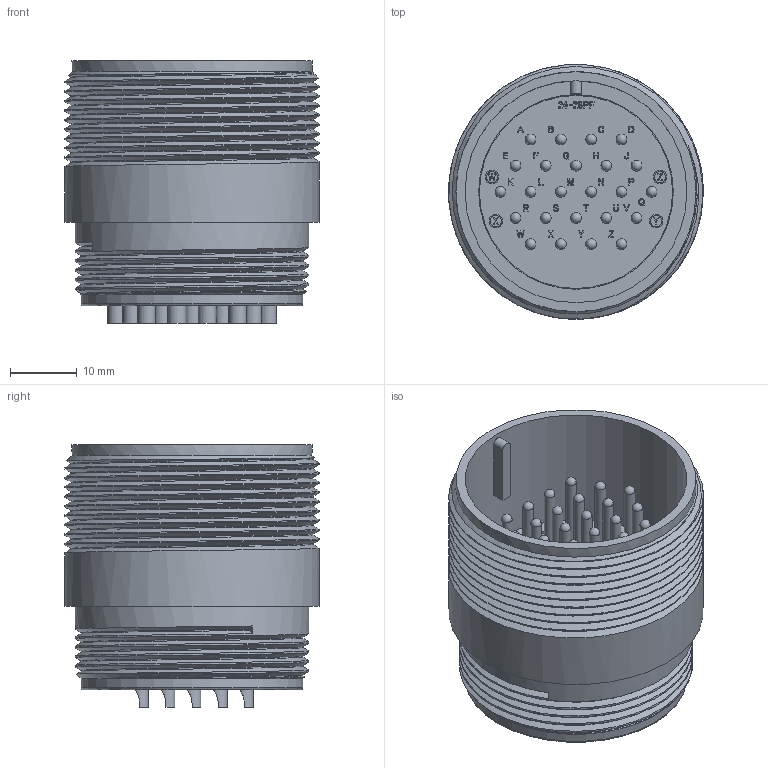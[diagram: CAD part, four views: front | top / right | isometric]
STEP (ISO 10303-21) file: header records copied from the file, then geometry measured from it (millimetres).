
FILE_DESCRIPTION (( 'STEP AP203' ), '1' );
FILE_NAME ('DMS3101A24-28P(D263).STEP', '2022-02-17T00:33:02', ( '' ), ( '' ), 'SwSTEP 2.0', 'SolidWorks 2018', '' );
FILE_SCHEMA (( 'CONFIG_CONTROL_DESIGN' ));
Length unit declared in the file: millimetre
Products named in the file (1): DMS3101A24-28P(D263)
Bounding box: 38.06 x 38.06 x 39.2 mm (x, y, z)
Volume: 18878 mm3; surface area: 14566.6 mm2
Topology: 1 solids, 1 shells, 1259 faces, 3376 edges, 2234 vertices
Faces by surface type: plane 725, bspline 352, cylinder 155, sphere 24, cone 2, torus 1
Full cylindrical faces by diameter (mm): 1.59 x24, 1.7 x4, 2 x4, 3.8 x24, 28.85 x1, 29.08 x1, 30.75 x1, 33.12 x1, 33.15 x1, 34.88 x4, 35.87 x1, 38.06 x8
Entity records: 51810 total; most frequent: CARTESIAN_POINT 23824, ORIENTED_EDGE 6338, DIRECTION 4390, EDGE_CURVE 3169, VERTEX_POINT 2154, VECTOR 2118, LINE 2118, EDGE_LOOP 1477
